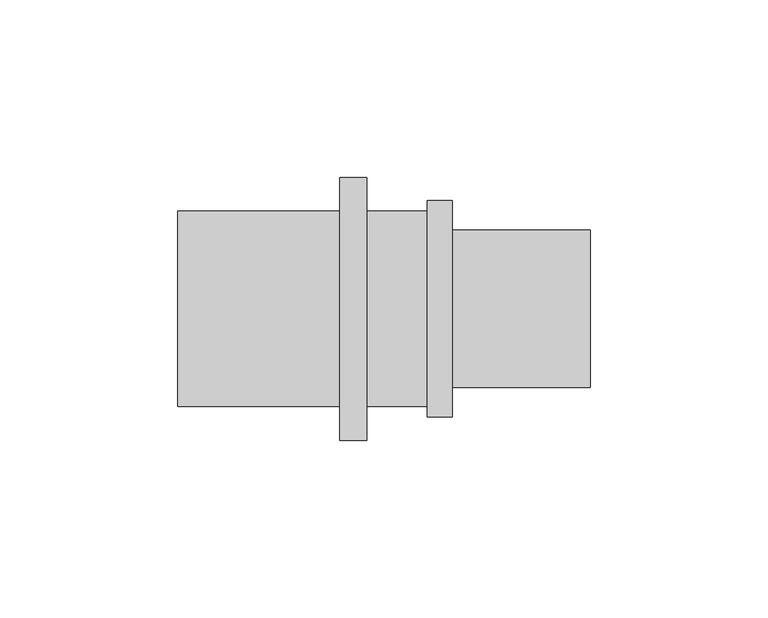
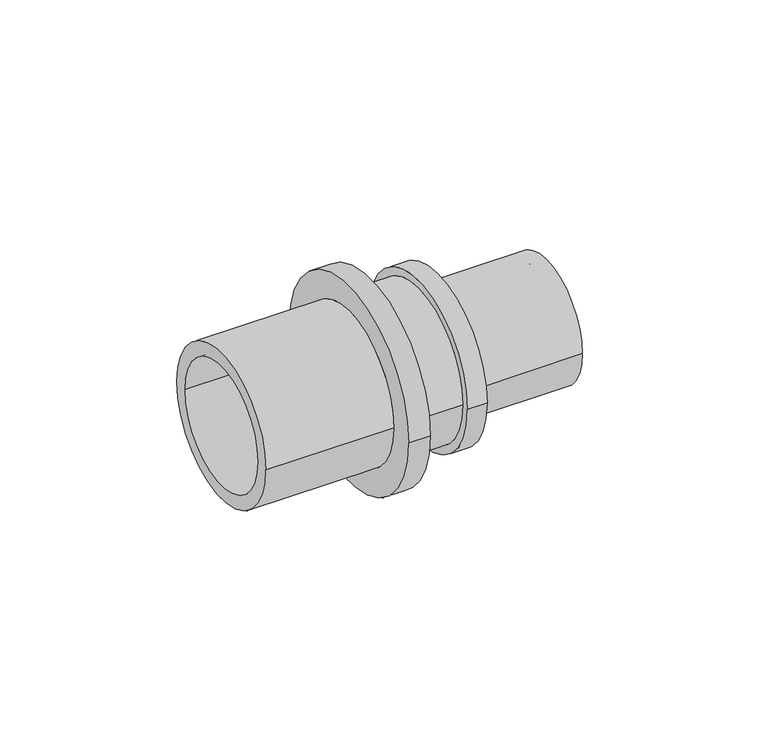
"""IFC4 building model written with IfcOpenShell, lengths in millimetres: pipe fitting geometry, Coupling transistion : C RE SDR11 LX."""

import ifcopenshell
import ifcopenshell.guid

model = None  # the IFC model being written
_history = None  # IfcOwnerHistory: only IFC2X3 demands one
_inside = {}  # id of a spatial element -> (the spatial element, [elements in it])
_under = {}  # id of a project, library or spatial element -> (it, [spatial elements below it])
_declared = {}  # id of a project -> (the project, [libraries it declares])
_typed = {}  # id of a type object -> (the type object, [elements of that type])
_made_of = {}  # id of a material, layer set ... -> (it, [elements and type objects made of it])


def new_model(schema):
    """Start an empty IFC model of exactly this schema.

    Asked for "IFC4X3", IfcOpenShell would pick the latest addendum, in which some entities
    have other attributes; the version numbers below select the first issue.
    IFC2X3 requires an IfcOwnerHistory on every rooted entity: one is made here for all.
    """
    global model, _history
    if schema == "IFC4X3":
        model = ifcopenshell.file(schema_version=(4, 3, 0, 0))
    else:
        model = ifcopenshell.file(schema=schema)
    _inside.clear()
    _under.clear()
    _declared.clear()
    _typed.clear()
    _made_of.clear()
    _history = None
    if model.schema == "IFC2X3":
        org = make("IfcOrganization", Name="unknown")
        user = make(
            "IfcPersonAndOrganization",
            ThePerson=make("IfcPerson", FamilyName="unknown"),
            TheOrganization=org,
        )
        app = make(
            "IfcApplication",
            ApplicationDeveloper=org,
            Version="unknown",
            ApplicationFullName="unknown",
            ApplicationIdentifier="unknown",
        )
        _history = make(
            "IfcOwnerHistory",
            OwningUser=user,
            OwningApplication=app,
            ChangeAction="ADDED",
            CreationDate=0,
        )
    return model


def make(cls, **values):
    """One entity of the class cls with the attributes given. An attribute that is None is left unset."""
    return model.create_entity(
        cls, **{name: value for name, value in values.items() if value is not None}
    )


def rooted(cls, **values):
    """An entity with a GlobalId (a new one), such as an element, a storey or a relation."""
    return make(cls, GlobalId=ifcopenshell.guid.new(), OwnerHistory=_history, **values)


def si_unit(unit_type, name, prefix=None):
    """IfcSIUnit, for example si_unit("LENGTHUNIT", "METRE", prefix="MILLI")."""
    return make("IfcSIUnit", UnitType=unit_type, Prefix=prefix, Name=name)


def assignment(units):
    """IfcUnitAssignment: the units of a project."""
    return None if units is None else make("IfcUnitAssignment", Units=units)


def point(xyz):
    """IfcCartesianPoint."""
    return None if xyz is None else make("IfcCartesianPoint", Coordinates=xyz)


def direction(xyz):
    """IfcDirection."""
    return None if xyz is None else make("IfcDirection", DirectionRatios=xyz)


def frame(location, z_axis=None, x_axis=None):
    """IfcAxis2Placement3D, a coordinate frame: its origin and axes. An axis left out is left unset."""
    return make(
        "IfcAxis2Placement3D",
        Location=point(location),
        Axis=direction(z_axis),
        RefDirection=direction(x_axis),
    )


def origin():
    """The frame at (0, 0, 0) with its axes left unset."""
    return frame((0.0, 0.0, 0.0))


def place(relative_to, where):
    """IfcLocalPlacement: puts the frame where relative to a parent placement (None: the world)."""
    return make(
        "IfcLocalPlacement", PlacementRelTo=relative_to, RelativePlacement=where
    )


def context(
    kind, dimensions, precision=None, world=None, true_north=None, identifier=None
):
    """IfcGeometricRepresentationContext, for example the 3D "Model" context."""
    return make(
        "IfcGeometricRepresentationContext",
        ContextIdentifier=identifier,
        ContextType=kind,
        CoordinateSpaceDimension=dimensions,
        Precision=precision,
        WorldCoordinateSystem=world,
        TrueNorth=true_north,
    )


def project(units=None, contexts=None):
    """IfcProject with its units and contexts."""
    return rooted(
        "IfcProject",
        Name="project",
        RepresentationContexts=contexts,
        UnitsInContext=assignment(units),
    )


def spatial(cls, under=None, at=None, **own):
    """A site, building, storey or space (cls), placed at a placement, below another one or the project."""
    s = rooted(cls, ObjectPlacement=at, **own)
    if under is not None:
        _under.setdefault(under.id(), (under, []))[1].append(s)
    return s


def polyline(points):
    """IfcPolyline through the points."""
    return make("IfcPolyline", Points=[point(p) for p in points])


def circle_curve(where, radius):
    """IfcCircle in the frame where."""
    return make("IfcCircle", Position=where, Radius=radius)


def shape(context_of_items, identifier, shape_type, items):
    """IfcShapeRepresentation: the items that make up one representation, for example the "Body"."""
    return make(
        "IfcShapeRepresentation",
        ContextOfItems=context_of_items,
        RepresentationIdentifier=identifier,
        RepresentationType=shape_type,
        Items=items,
    )


def source(mapping_origin, context_of_items, identifier, shape_type, items):
    """IfcRepresentationMap: a shape defined once, which mapped items show again and again."""
    return make(
        "IfcRepresentationMap",
        MappingOrigin=mapping_origin,
        MappedRepresentation=shape(context_of_items, identifier, shape_type, items),
    )


def transform(
    local_origin,
    x_axis=None,
    y_axis=None,
    z_axis=None,
    scale=None,
    scale2=None,
    scale3=None,
    uniform=True,
):
    """IfcCartesianTransformationOperator3D, or its non-uniform kind. x_axis, y_axis, z_axis: its Axis1, 2, 3."""
    if uniform:
        return make(
            "IfcCartesianTransformationOperator3D",
            Axis1=direction(x_axis),
            Axis2=direction(y_axis),
            LocalOrigin=point(local_origin),
            Scale=scale,
            Axis3=direction(z_axis),
        )
    return make(
        "IfcCartesianTransformationOperator3DnonUniform",
        Axis1=direction(x_axis),
        Axis2=direction(y_axis),
        LocalOrigin=point(local_origin),
        Scale=scale,
        Axis3=direction(z_axis),
        Scale2=scale2,
        Scale3=scale3,
    )


def mapped(mapping_source, mapping_target):
    """IfcMappedItem: shows the shape of a source again, moved by a transform."""
    return make(
        "IfcMappedItem", MappingSource=mapping_source, MappingTarget=mapping_target
    )


def made_of(thing, what):
    """Note that an element or type object is made of a material, layer set ...; save() writes the relation."""
    if what is not None:
        _made_of.setdefault(what.id(), (what, []))[1].append(thing)
    return thing


def element(
    cls,
    number,
    at=None,
    inside=None,
    cuts=None,
    type_object=None,
    material=None,
    context=None,
    identifier="Body",
    shape_type=None,
    held_by="IfcProductDefinitionShape",
    body=None,
    shapes=None,
    **own,
):
    """One element of the class cls, such as IfcWall. Its Tag is "e" and its number.

    at: its placement. inside: the storey or other place that contains it. cuts: it is an
    opening in that element (IfcRelVoidsElement). A single representation is given by context,
    identifier, shape_type and body (its items); several are given by shapes. held_by: the class
    of the entity that holds the representations. save() writes the other relations.
    """
    e = rooted(cls, Tag="e%d" % number, ObjectPlacement=at, **own)
    if body is not None:
        shapes = [shape(context, identifier, shape_type, body)]
    if shapes is not None:
        e.Representation = make(held_by, Representations=shapes)
    if inside is not None:
        _inside.setdefault(inside.id(), (inside, []))[1].append(e)
    if cuts is not None:
        rooted(
            "IfcRelVoidsElement", RelatingBuildingElement=cuts, RelatedOpeningElement=e
        )
    if type_object is not None:
        _typed.setdefault(type_object.id(), (type_object, []))[1].append(e)
    return made_of(e, material)


def aggregate(whole, parts):
    """IfcRelAggregates: a whole, such as a stair, and the parts it consists of."""
    return rooted("IfcRelAggregates", RelatingObject=whole, RelatedObjects=parts)


def save(model, path):
    """Write the relations noted so far, then the file.

    IfcRelAggregates (storeys below a building ...), IfcRelContainedInSpatialStructure (elements
    in a storey), IfcRelDefinesByType, IfcRelAssociatesMaterial and IfcRelDeclares: one each for
    every whole, place, type object, material and project.
    """
    for whole, parts in _under.values():
        aggregate(whole, parts)
    for where, things in _inside.values():
        rooted(
            "IfcRelContainedInSpatialStructure",
            RelatedElements=things,
            RelatingStructure=where,
        )
    for kind, things in _typed.values():
        rooted("IfcRelDefinesByType", RelatedObjects=things, RelatingType=kind)
    for what, things in _made_of.values():
        rooted("IfcRelAssociatesMaterial", RelatedObjects=things, RelatingMaterial=what)
    for by, libraries in _declared.values():
        rooted("IfcRelDeclares", RelatingContext=by, RelatedDefinitions=libraries)
    model.write(path)


def plane_surface(at):
    """IfcPlane: the flat surface through the origin of the frame at, square to its z axis."""
    return make("IfcPlane", Position=at)


def cylinder_surface(at, radius):
    """IfcCylindricalSurface: all points at the distance radius from the z axis of the frame at."""
    return make("IfcCylindricalSurface", Position=at, Radius=radius)


def revolved_surface(curve, axis_point, axis_direction):
    """IfcSurfaceOfRevolution: the curve turned about the line through axis_point along axis_direction."""
    return make(
        "IfcSurfaceOfRevolution",
        SweptCurve=make("IfcArbitraryOpenProfileDef", ProfileType="CURVE", Curve=curve),
        AxisPosition=make("IfcAxis1Placement", Location=point(axis_point), Axis=direction(axis_direction)),
    )


def advanced_brep(points, edges, surfaces, faces):
    """IfcAdvancedBrep: a solid bounded by faces that lie on surfaces and meet in shared edges.

    An edge is (start, end): straight between two places in points (the first is 0);
    or (start, end, curve); or (start, end, curve, False) where it runs against its curve.
    A face is (place in surfaces, loops), or (place, loops, False) where it looks against
    its surface's normal. A loop lists edges by number (the first is 1), with a minus sign
    where the edge is run from its end to its start. The first loop is the outer one.
    """
    corners = [point(p) for p in points]
    vertices = [make("IfcVertexPoint", VertexGeometry=c) for c in corners]
    made = []
    for start, end, *more in edges:
        made.append(
            make(
                "IfcEdgeCurve",
                EdgeStart=vertices[start],
                EdgeEnd=vertices[end],
                EdgeGeometry=more[0] if more else make("IfcPolyline", Points=[corners[start], corners[end]]),
                SameSense=more[1] if len(more) > 1 else True,
            )
        )
    hull = []
    for where, loops, *sense in faces:
        bounds = []
        for j, loop in enumerate(loops):
            ring = [make("IfcOrientedEdge", EdgeElement=made[abs(k) - 1], Orientation=k > 0) for k in loop]
            bounds.append(
                make(
                    "IfcFaceOuterBound" if j == 0 else "IfcFaceBound",
                    Bound=make("IfcEdgeLoop", EdgeList=ring),
                    Orientation=True,
                )
            )
        hull.append(make("IfcAdvancedFace", Bounds=bounds, FaceSurface=surfaces[where], SameSense=sense[0] if sense else True))
    return make("IfcAdvancedBrep", Outer=make("IfcClosedShell", CfsFaces=hull))


def pipe_fitting_378b12e4(model_context):
    return source(origin(), model_context, "Body", "AdvancedBrep", [
        advanced_brep(
        [(-17.9, 27.55, 0.0), (-17.9, -27.55, 0.0), (-63.5, -27.55, 0.0), (-63.5, 27.55, 0.0), (-10.2, 37.0, 0.0), (-10.2, -37.0, 0.0), (-17.9, -37.0, 0.0), (-17.9, 37.0, 0.0), (6.8, 27.55, 0.0), (6.8, -27.55, 0.0), (-10.2, -27.55, 0.0), (-10.2, 27.55, 0.0), (13.8, 30.5, 0.0), (13.8, -30.5, 0.0), (6.8, -30.5, 0.0), (6.8, 30.5, 0.0), (52.7, 22.15, 0.0), (52.7, -22.15, 0.0), (13.8, -22.15, 0.0), (13.8, 22.15, 0.0), (0.0, 17.5, 0.0), (0.0, -17.5, 0.0), (52.7, -17.5, 0.0), (52.7, 17.5, 0.0), (-63.5, 22.5, 0.0), (-63.5, -22.5, 0.0), (0.0, -22.5, 0.0), (0.0, 22.5, 0.0)],
        [
            (0, 1, circle_curve(frame((-17.9, 0.0, 0.0), z_axis=(-1.0, 0.0, 0.0), x_axis=(0.0, -1.0, 0.0)), 27.55)),
            (1, 2),
            (2, 3, circle_curve(frame((-63.5, 0.0, 0.0), z_axis=(1.0, 0.0, 0.0), x_axis=(0.0, -1.0, 0.0)), 27.55)),
            (3, 0),
            (4, 5, circle_curve(frame((-10.2, 0.0, 0.0), z_axis=(-1.0, 0.0, 0.0), x_axis=(0.0, -1.0, 0.0)), 37.0)),
            (5, 6),
            (6, 7, circle_curve(frame((-17.9, 0.0, 0.0), z_axis=(1.0, 0.0, 0.0), x_axis=(0.0, -1.0, 0.0)), 37.0)),
            (7, 4),
            (8, 9, circle_curve(frame((6.8, 0.0, 0.0), z_axis=(-1.0, 0.0, 0.0), x_axis=(0.0, -1.0, 0.0)), 27.55)),
            (9, 10),
            (10, 11, circle_curve(frame((-10.2, 0.0, 0.0), z_axis=(1.0, 0.0, 0.0), x_axis=(0.0, -1.0, 0.0)), 27.55)),
            (11, 8),
            (12, 13, circle_curve(frame((13.8, 0.0, 0.0), z_axis=(-1.0, 0.0, 0.0), x_axis=(0.0, -1.0, 0.0)), 30.5)),
            (13, 14),
            (14, 15, circle_curve(frame((6.8, 0.0, 0.0), z_axis=(1.0, 0.0, 0.0), x_axis=(0.0, -1.0, 0.0)), 30.5)),
            (15, 12),
            (16, 17, circle_curve(frame((52.7, 0.0, 0.0), z_axis=(-1.0, 0.0, 0.0), x_axis=(0.0, -1.0, 0.0)), 22.15)),
            (17, 18),
            (18, 19, circle_curve(frame((13.8, 0.0, 0.0), z_axis=(1.0, 0.0, 0.0), x_axis=(0.0, -1.0, 0.0)), 22.15)),
            (19, 16),
            (20, 21, circle_curve(frame((0.0, 0.0, 0.0), z_axis=(-1.0, 0.0, 0.0), x_axis=(0.0, -1.0, 0.0)), 17.5)),
            (21, 22),
            (22, 23, circle_curve(frame((52.7, 0.0, 0.0), z_axis=(1.0, 0.0, 0.0), x_axis=(0.0, -1.0, 0.0)), 17.5)),
            (23, 20),
            (24, 25, circle_curve(frame((-63.5, 0.0, 0.0), z_axis=(-1.0, 0.0, 0.0), x_axis=(0.0, -1.0, 0.0)), 22.5)),
            (25, 26),
            (26, 27, circle_curve(frame((0.0, 0.0, 0.0), z_axis=(1.0, 0.0, 0.0), x_axis=(0.0, -1.0, 0.0)), 22.5)),
            (27, 24),
            (2, 3, circle_curve(frame((-63.5, 0.0, 0.0), z_axis=(-1.0, 0.0, 0.0), x_axis=(0.0, 1.0, 0.0)), 27.55)),
            (24, 25, circle_curve(frame((-63.5, 0.0, 0.0), z_axis=(1.0, 0.0, 0.0), x_axis=(0.0, 1.0, 0.0)), 22.5)),
            (1, 0, circle_curve(frame((-17.9, 0.0, 0.0), z_axis=(-1.0, 0.0, 0.0), x_axis=(0.0, 1.0, 0.0)), 27.55)),
            (6, 7, circle_curve(frame((-17.9, 0.0, 0.0), z_axis=(-1.0, 0.0, 0.0), x_axis=(0.0, 1.0, 0.0)), 37.0)),
            (5, 4, circle_curve(frame((-10.2, 0.0, 0.0), z_axis=(-1.0, 0.0, 0.0), x_axis=(0.0, 1.0, 0.0)), 37.0)),
            (10, 11, circle_curve(frame((-10.2, 0.0, 0.0), z_axis=(-1.0, 0.0, 0.0), x_axis=(0.0, 1.0, 0.0)), 27.55)),
            (9, 8, circle_curve(frame((6.8, 0.0, 0.0), z_axis=(-1.0, 0.0, 0.0), x_axis=(0.0, 1.0, 0.0)), 27.55)),
            (14, 15, circle_curve(frame((6.8, 0.0, 0.0), z_axis=(-1.0, 0.0, 0.0), x_axis=(0.0, 1.0, 0.0)), 30.5)),
            (13, 12, circle_curve(frame((13.8, 0.0, 0.0), z_axis=(-1.0, 0.0, 0.0), x_axis=(0.0, 1.0, 0.0)), 30.5)),
            (18, 19, circle_curve(frame((13.8, 0.0, 0.0), z_axis=(-1.0, 0.0, 0.0), x_axis=(0.0, 1.0, 0.0)), 22.15)),
            (17, 16, circle_curve(frame((52.7, 0.0, 0.0), z_axis=(-1.0, 0.0, 0.0), x_axis=(0.0, 1.0, 0.0)), 22.15)),
            (22, 23, circle_curve(frame((52.7, 0.0, 0.0), z_axis=(-1.0, 0.0, 0.0), x_axis=(0.0, 1.0, 0.0)), 17.5)),
            (21, 20, circle_curve(frame((0.0, 0.0, 0.0), z_axis=(-1.0, 0.0, 0.0), x_axis=(0.0, 1.0, 0.0)), 17.5)),
            (26, 27, circle_curve(frame((0.0, 0.0, 0.0), z_axis=(-1.0, 0.0, 0.0), x_axis=(0.0, 1.0, 0.0)), 22.5)),
        ],
        [
            cylinder_surface(frame((0.0, 0.0, 0.0), z_axis=(1.0, 0.0, 0.0), x_axis=(0.0, -1.0, 0.0)), 27.55),
            cylinder_surface(frame((0.0, 0.0, 0.0), z_axis=(1.0, 0.0, 0.0), x_axis=(0.0, -1.0, 0.0)), 37.0),
            cylinder_surface(frame((0.0, 0.0, 0.0), z_axis=(1.0, 0.0, 0.0), x_axis=(0.0, -1.0, 0.0)), 30.5),
            cylinder_surface(frame((0.0, 0.0, 0.0), z_axis=(1.0, 0.0, 0.0), x_axis=(0.0, -1.0, 0.0)), 22.15),
            revolved_surface(polyline([(52.7, -17.5, 0.0), (0.0, -17.5, 0.0)]), (0.0, 0.0, 0.0), (1.0, 0.0, 0.0)),
            revolved_surface(polyline([(0.0, -22.5, 0.0), (-63.5, -22.5, 0.0)]), (0.0, 0.0, 0.0), (1.0, 0.0, 0.0)),
            plane_surface(frame((-63.5, 0.0, 0.0), z_axis=(-1.0, 0.0, 0.0), x_axis=(0.0, 1.0, 0.0))),
            cylinder_surface(frame((0.0, 0.0, 0.0), z_axis=(1.0, 0.0, 0.0), x_axis=(0.0, 1.0, 0.0)), 27.55),
            plane_surface(frame((-17.9, 0.0, 0.0), z_axis=(-1.0, 0.0, 0.0), x_axis=(0.0, 1.0, 0.0))),
            cylinder_surface(frame((0.0, 0.0, 0.0), z_axis=(1.0, 0.0, 0.0), x_axis=(0.0, 1.0, 0.0)), 37.0),
            plane_surface(frame((-10.2, 0.0, 0.0), z_axis=(1.0, 0.0, 0.0), x_axis=(0.0, 1.0, 0.0))),
            plane_surface(frame((6.8, 0.0, 0.0), z_axis=(-1.0, 0.0, 0.0), x_axis=(0.0, 1.0, 0.0))),
            cylinder_surface(frame((0.0, 0.0, 0.0), z_axis=(1.0, 0.0, 0.0), x_axis=(0.0, 1.0, 0.0)), 30.5),
            plane_surface(frame((13.8, 0.0, 0.0), z_axis=(1.0, 0.0, 0.0), x_axis=(0.0, 1.0, 0.0))),
            cylinder_surface(frame((0.0, 0.0, 0.0), z_axis=(1.0, 0.0, 0.0), x_axis=(0.0, 1.0, 0.0)), 22.15),
            plane_surface(frame((52.7, 0.0, 0.0), z_axis=(1.0, 0.0, 0.0), x_axis=(0.0, 1.0, 0.0))),
            revolved_surface(polyline([(52.7, 17.5, 0.0), (0.0, 17.5, 0.0)]), (0.0, 0.0, 0.0), (1.0, 0.0, 0.0)),
            plane_surface(frame((0.0, 0.0, 0.0), z_axis=(-1.0, 0.0, 0.0), x_axis=(0.0, 1.0, 0.0))),
            revolved_surface(polyline([(0.0, 22.5, 0.0), (-63.5, 22.5, 0.0)]), (0.0, 0.0, 0.0), (1.0, 0.0, 0.0)),
        ],
        [
            (0, [[1, 2, 3, 4]]),
            (1, [[5, 6, 7, 8]]),
            (0, [[9, 10, 11, 12]]),
            (2, [[13, 14, 15, 16]]),
            (3, [[17, 18, 19, 20]]),
            (4, [[21, 22, 23, 24]]),
            (5, [[25, 26, 27, 28]]),
            (6, [[29, -3], [30, -25]]),
            (7, [[31, -4, -29, -2]]),
            (8, [[32, -7], [-31, -1]]),
            (9, [[33, -8, -32, -6]]),
            (10, [[-33, -5], [34, -11]]),
            (7, [[35, -12, -34, -10]]),
            (11, [[36, -15], [-35, -9]]),
            (12, [[37, -16, -36, -14]]),
            (13, [[-37, -13], [38, -19]]),
            (14, [[39, -20, -38, -18]]),
            (15, [[-39, -17], [40, -23]]),
            (16, [[41, -24, -40, -22]]),
            (17, [[42, -27], [-41, -21]]),
            (18, [[-30, -28, -42, -26]]),
        ],
    ),
    ])


if __name__ == "__main__":
    model = new_model("IFC4")
    model_context = context("Model", 3, world=origin())
    ifc_project = project(units=[si_unit("LENGTHUNIT", "METRE", prefix="MILLI")], contexts=[model_context])
    site = spatial("IfcSite", under=ifc_project)
    building = spatial("IfcBuilding", under=site)
    placement = place(None, origin())
    pipe_fitting_shape = pipe_fitting_378b12e4(model_context)
    element("IfcPipeFitting", 1, ObjectType="Coupling transistion : C RE SDR11 LX", at=placement, inside=building, context=model_context, shape_type="MappedRepresentation", body=[
        mapped(pipe_fitting_shape, transform((0.0, 0.0, 0.0), x_axis=(1.0, 0.0, 0.0), y_axis=(0.0, 1.0, 0.0), z_axis=(0.0, 0.0, 1.0))),
    ])
    save(model, "model.ifc")
